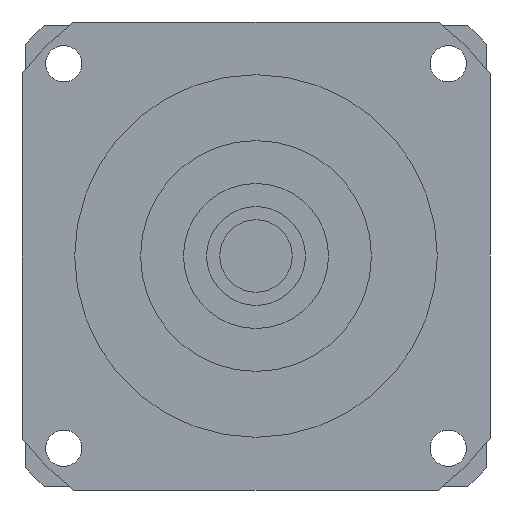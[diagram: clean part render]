
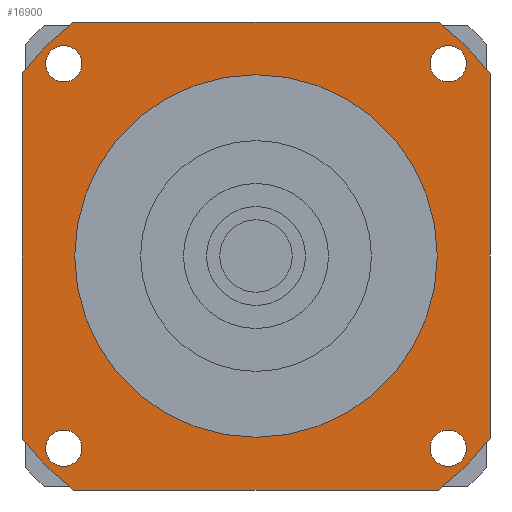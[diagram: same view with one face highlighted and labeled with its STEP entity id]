
A CAD part, left-side view. The second image highlights one B-rep face of the part: STEP entity #16900.
In plain terms, the highlighted planar face has unit normal (-1, 0, 0) as drawn and (0, 0, -1) by its records, which use the part's own axes.
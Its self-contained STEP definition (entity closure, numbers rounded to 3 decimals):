
#13100=CARTESIAN_POINT('',(71.,55.308,-59.7));
#13110=VERTEX_POINT('',#13100);
#13160=CARTESIAN_POINT('',(71.,71.,-59.7));
#13170=DIRECTION('',(0.,-1.,0.));
#13180=VECTOR('',#13170,1000.);
#13190=LINE('',#13160,#13180);
#13200=CARTESIAN_POINT('',(71.,-55.308,-59.7));
#13210=VERTEX_POINT('',#13200);
#13220=EDGE_CURVE('',#13110,#13210,#13190,.T.);
#15320=CARTESIAN_POINT('',(52.836,-58.336,-59.7));
#15330=VERTEX_POINT('',#15320);
#15360=CARTESIAN_POINT('',(58.336,-58.336,-59.7));
#15370=DIRECTION('',(0.,0.,-1.));
#15380=DIRECTION('',(1.,0.,0.));
#15390=AXIS2_PLACEMENT_3D('',#15360,#15370,#15380);
#15400=CIRCLE('',#15390,5.5);
#15410=CARTESIAN_POINT('',(63.836,-58.336,-59.7));
#15420=VERTEX_POINT('',#15410);
#15430=EDGE_CURVE('',#15420,#15330,#15400,.T.);
#15550=CARTESIAN_POINT('',(71.,71.,-59.7));
#15560=DIRECTION('',(0.,0.,-1.));
#15570=DIRECTION('',(1.,0.,0.));
#15580=AXIS2_PLACEMENT_3D('',#15550,#15560,#15570);
#15590=PLANE('',#15580);
#15600=CARTESIAN_POINT('',(-58.336,-58.336,-59.7));
#15610=DIRECTION('',(0.,0.,-1.));
#15620=DIRECTION('',(0.,-1.,0.));
#15630=AXIS2_PLACEMENT_3D('',#15600,#15610,#15620);
#15640=CIRCLE('',#15630,5.5);
#15650=CARTESIAN_POINT('',(-58.336,-63.836,-59.7));
#15660=VERTEX_POINT('',#15650);
#15670=CARTESIAN_POINT('',(-58.336,-52.836,-59.7));
#15680=VERTEX_POINT('',#15670);
#15690=EDGE_CURVE('',#15660,#15680,#15640,.T.);
#15700=ORIENTED_EDGE('',*,*,#15690,.F.);
#15710=EDGE_CURVE('',#15680,#15660,#15640,.T.);
#15720=ORIENTED_EDGE('',*,*,#15710,.F.);
#15730=EDGE_LOOP('',(#15720,#15700));
#15740=FACE_BOUND('',#15730,.T.);
#15750=CARTESIAN_POINT('',(-58.336,58.336,-59.7));
#15760=DIRECTION('',(0.,0.,-1.));
#15770=DIRECTION('',(-1.,0.,0.));
#15780=AXIS2_PLACEMENT_3D('',#15750,#15760,#15770);
#15790=CIRCLE('',#15780,5.5);
#15800=CARTESIAN_POINT('',(-63.836,58.336,-59.7));
#15810=VERTEX_POINT('',#15800);
#15820=CARTESIAN_POINT('',(-52.836,58.336,-59.7));
#15830=VERTEX_POINT('',#15820);
#15840=EDGE_CURVE('',#15810,#15830,#15790,.T.);
#15850=ORIENTED_EDGE('',*,*,#15840,.F.);
#15860=EDGE_CURVE('',#15830,#15810,#15790,.T.);
#15870=ORIENTED_EDGE('',*,*,#15860,.F.);
#15880=EDGE_LOOP('',(#15870,#15850));
#15890=FACE_BOUND('',#15880,.T.);
#15900=CARTESIAN_POINT('',(58.336,58.336,-59.7));
#15910=DIRECTION('',(0.,0.,-1.));
#15920=DIRECTION('',(0.,1.,0.));
#15930=AXIS2_PLACEMENT_3D('',#15900,#15910,#15920);
#15940=CIRCLE('',#15930,5.5);
#15950=CARTESIAN_POINT('',(58.336,63.836,-59.7));
#15960=VERTEX_POINT('',#15950);
#15970=CARTESIAN_POINT('',(58.336,52.836,-59.7));
#15980=VERTEX_POINT('',#15970);
#15990=EDGE_CURVE('',#15960,#15980,#15940,.T.);
#16000=ORIENTED_EDGE('',*,*,#15990,.F.);
#16010=EDGE_CURVE('',#15980,#15960,#15940,.T.);
#16020=ORIENTED_EDGE('',*,*,#16010,.F.);
#16030=EDGE_LOOP('',(#16020,#16000));
#16040=FACE_BOUND('',#16030,.T.);
#16050=CARTESIAN_POINT('',(0.,0.,
-59.7));
#16060=DIRECTION('',(0.,0.,1.));
#16070=DIRECTION('',(0.,1.,0.));
#16080=AXIS2_PLACEMENT_3D('',#16050,#16060,#16070);
#16090=CIRCLE('',#16080,55.);
#16100=CARTESIAN_POINT('',(-55.,0.,-59.7));
#16110=VERTEX_POINT('',#16100);
#16120=CARTESIAN_POINT('',(55.,0.,-59.7));
#16130=VERTEX_POINT('',#16120);
#16140=EDGE_CURVE('',#16110,#16130,#16090,.T.);
#16150=ORIENTED_EDGE('',*,*,#16140,.T.);
#16160=CARTESIAN_POINT('',(0.,55.,-59.7));
#16170=VERTEX_POINT('',#16160);
#16180=EDGE_CURVE('',#16170,#16110,#16090,.T.);
#16190=ORIENTED_EDGE('',*,*,#16180,.T.);
#16200=EDGE_CURVE('',#16130,#16170,#16090,.T.);
#16210=ORIENTED_EDGE('',*,*,#16200,.T.);
#16220=EDGE_LOOP('',(#16210,#16190,#16150));
#16230=FACE_BOUND('',#16220,.T.);
#16240=CARTESIAN_POINT('',(-71.,71.,-59.7));
#16250=DIRECTION('',(1.,0.,0.));
#16260=VECTOR('',#16250,1000.);
#16270=LINE('',#16240,#16260);
#16280=CARTESIAN_POINT('',(-55.308,71.,-59.7));
#16290=VERTEX_POINT('',#16280);
#16300=CARTESIAN_POINT('',(55.308,71.,-59.7));
#16310=VERTEX_POINT('',#16300);
#16320=EDGE_CURVE('',#16290,#16310,#16270,.T.);
#16330=ORIENTED_EDGE('',*,*,#16320,.T.);
#16340=CARTESIAN_POINT('',(0.,0.,
-59.7));
#16350=DIRECTION('',(0.,0.,-1.));
#16360=DIRECTION('',(1.,0.,0.));
#16370=AXIS2_PLACEMENT_3D('',#16340,#16350,#16360);
#16380=CIRCLE('',#16370,90.);
#16390=CARTESIAN_POINT('',(-71.,55.308,-59.7));
#16400=VERTEX_POINT('',#16390);
#16410=EDGE_CURVE('',#16400,#16290,#16380,.T.);
#16420=ORIENTED_EDGE('',*,*,#16410,.T.);
#16430=CARTESIAN_POINT('',(-71.,-71.,-59.7));
#16440=DIRECTION('',(0.,1.,0.));
#16450=VECTOR('',#16440,1000.);
#16460=LINE('',#16430,#16450);
#16470=CARTESIAN_POINT('',(-71.,-55.308,-59.7));
#16480=VERTEX_POINT('',#16470);
#16490=EDGE_CURVE('',#16480,#16400,#16460,.T.);
#16500=ORIENTED_EDGE('',*,*,#16490,.T.);
#16510=CARTESIAN_POINT('',(0.,0.,
-59.7));
#16520=DIRECTION('',(0.,0.,-1.));
#16530=DIRECTION('',(1.,0.,0.));
#16540=AXIS2_PLACEMENT_3D('',#16510,#16520,#16530);
#16550=CIRCLE('',#16540,90.);
#16560=CARTESIAN_POINT('',(-55.308,-71.,-59.7));
#16570=VERTEX_POINT('',#16560);
#16580=EDGE_CURVE('',#16570,#16480,#16550,.T.);
#16590=ORIENTED_EDGE('',*,*,#16580,.T.);
#16600=CARTESIAN_POINT('',(71.,-71.,-59.7));
#16610=DIRECTION('',(-1.,0.,0.));
#16620=VECTOR('',#16610,1000.);
#16630=LINE('',#16600,#16620);
#16640=CARTESIAN_POINT('',(55.308,-71.,-59.7));
#16650=VERTEX_POINT('',#16640);
#16660=EDGE_CURVE('',#16650,#16570,#16630,.T.);
#16670=ORIENTED_EDGE('',*,*,#16660,.T.);
#16680=CARTESIAN_POINT('',(0.,0.,
-59.7));
#16690=DIRECTION('',(0.,0.,-1.));
#16700=DIRECTION('',(1.,0.,0.));
#16710=AXIS2_PLACEMENT_3D('',#16680,#16690,#16700);
#16720=CIRCLE('',#16710,90.);
#16730=EDGE_CURVE('',#13210,#16650,#16720,.T.);
#16740=ORIENTED_EDGE('',*,*,#16730,.T.);
#16750=ORIENTED_EDGE('',*,*,#13220,.T.);
#16760=CARTESIAN_POINT('',(0.,0.,
-59.7));
#16770=DIRECTION('',(0.,0.,-1.));
#16780=DIRECTION('',(1.,0.,0.));
#16790=AXIS2_PLACEMENT_3D('',#16760,#16770,#16780);
#16800=CIRCLE('',#16790,90.);
#16810=EDGE_CURVE('',#16310,#13110,#16800,.T.);
#16820=ORIENTED_EDGE('',*,*,#16810,.T.);
#16830=EDGE_LOOP('',(#16820,#16750,#16740,#16670,#16590,#16500,#16420,
#16330));
#16840=FACE_OUTER_BOUND('',#16830,.T.);
#16850=ORIENTED_EDGE('',*,*,#15430,.F.);
#16860=EDGE_CURVE('',#15330,#15420,#15400,.T.);
#16870=ORIENTED_EDGE('',*,*,#16860,.F.);
#16880=EDGE_LOOP('',(#16870,#16850));
#16890=FACE_BOUND('',#16880,.T.);
#16900=ADVANCED_FACE('',(#15740,#15890,#16040,#16230,#16840,#16890),
#15590,.T.);
